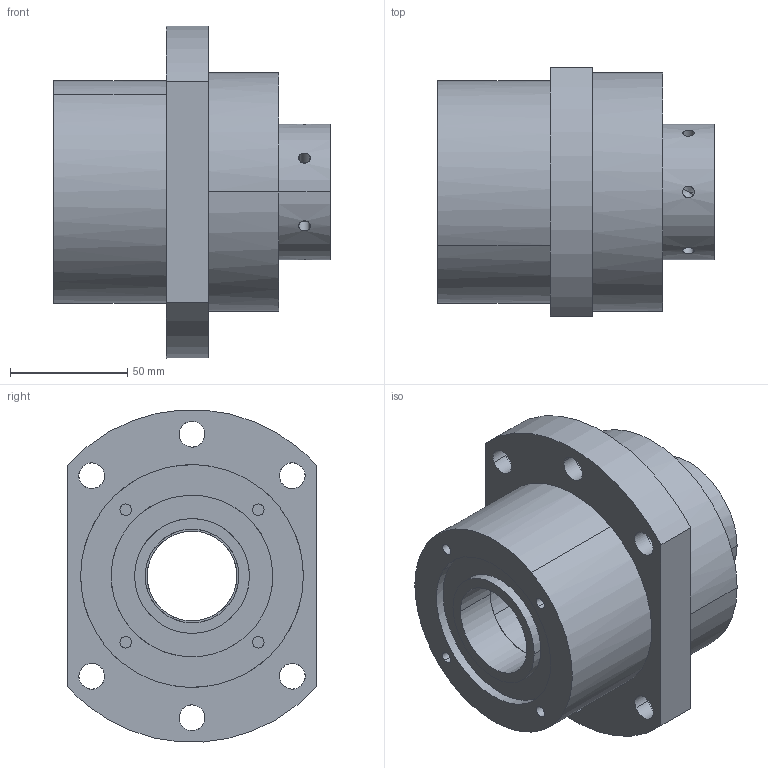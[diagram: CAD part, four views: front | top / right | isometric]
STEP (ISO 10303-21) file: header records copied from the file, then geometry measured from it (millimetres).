
FILE_DESCRIPTION(('CATIA V5 STEP Exchange'),'2;1');
FILE_NAME('D:\서포트 완성도면\WBK\WBK40DFF.stp','2014-03-26T10:26:05+00:00',('none'),('none'),'CATIA Version 5 Release 18 GA (IN-10)','CATIA V5 STEP AP203','none');
FILE_SCHEMA(('CONFIG_CONTROL_DESIGN'));
Length unit declared in the file: millimetre
Products named in the file (1): WBK40DFF
Assembly tree (4 placements, depth 2):
  WBK40DFF
    #56
    #3590  x2
    #3866
Bounding box: 118 x 106 x 141.68 mm (x, y, z)
Volume: 702229 mm3; surface area: 98704 mm2
Topology: 4 solids, 4 shells, 158 faces, 384 edges, 242 vertices
Faces by surface type: cylinder 92, cone 36, plane 30
Entity records: 6351 total; most frequent: CARTESIAN_POINT 3087, ORIENTED_EDGE 720, DIRECTION 470, EDGE_CURVE 360, VERTEX_POINT 234, AXIS2_PLACEMENT_3D 209, EDGE_LOOP 202, B_SPLINE_CURVE_WITH_KNOTS 164
